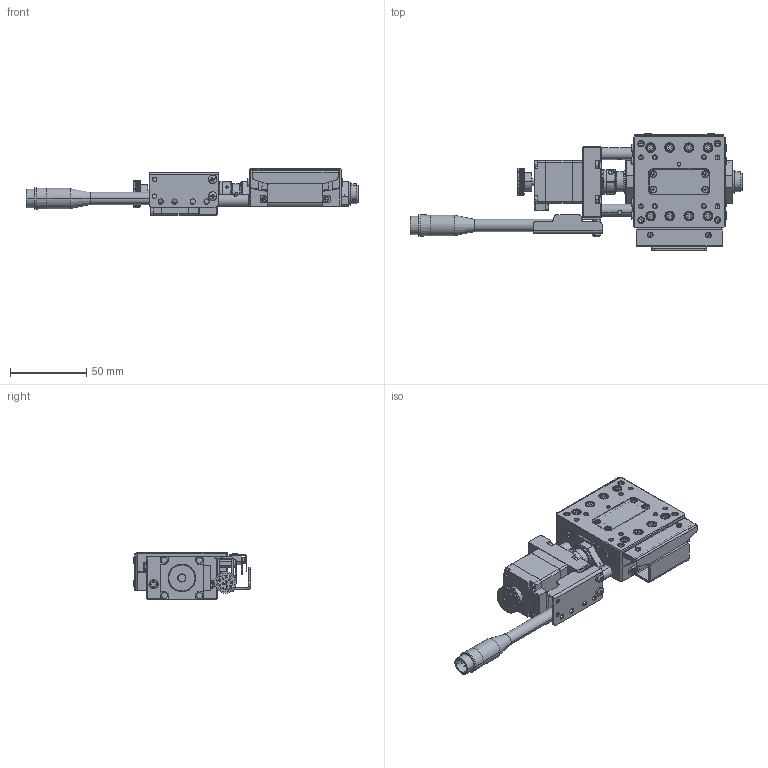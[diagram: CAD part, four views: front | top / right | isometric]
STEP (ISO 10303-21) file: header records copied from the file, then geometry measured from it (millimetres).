
FILE_DESCRIPTION (( 'STEP AP203' ), '1' );
FILE_NAME ('DGB60125-L1PC-L.STEP', '2021-08-21T08:52:34', ( '' ), ( '' ), 'SwSTEP 2.0', 'SolidWorks 2018', '' );
FILE_SCHEMA (( 'CONFIG_CONTROL_DESIGN' ));
Products named in the file (1): DGB60125-L1PC-L
Bounding box: 217.08 x 76.71 x 30.5 mm (x, y, z)
Volume: 127917 mm3; surface area: 69141.4 mm2
Topology: 24 solids, 129 shells, 4038 faces, 10076 edges, 6347 vertices
Faces by surface type: plane 2033, cylinder 1155, cone 380, bspline 214, torus 212, sphere 44
Entity records: 137891 total; most frequent: CARTESIAN_POINT 42668, ORIENTED_EDGE 19708, DIRECTION 19536, EDGE_CURVE 9854, AXIS2_PLACEMENT_3D 6941, VERTEX_POINT 6321, VECTOR 5654, LINE 5654
